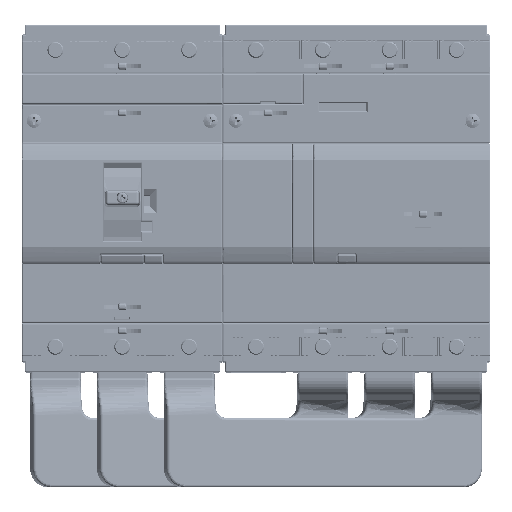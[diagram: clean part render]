
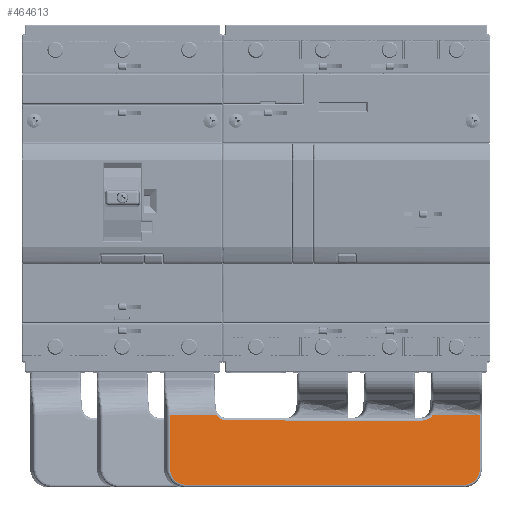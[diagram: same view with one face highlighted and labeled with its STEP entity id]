
A CAD part, top view. The second image highlights one B-rep face of the part: STEP entity #464613.
In plain terms, the highlighted planar face has unit normal (0.259, 0, 0.966).
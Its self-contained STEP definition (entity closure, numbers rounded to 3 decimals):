
#47782 = CARTESIAN_POINT ( 'NONE',  ( 67.715, -84.37, -27.983 ) ) ;
#47803 = CARTESIAN_POINT ( 'NONE',  ( 67.715, -104.37, -27.983 ) ) ;
#47807 = CARTESIAN_POINT ( 'NONE',  ( 61.919, -110.37, -26.43 ) ) ;
#47814 = CARTESIAN_POINT ( 'NONE',  ( -48.148, -104.37, 3.063 ) ) ;
#47820 = CARTESIAN_POINT ( 'NONE',  ( -48.148, -84.37, 3.063 ) ) ;
#47824 = CARTESIAN_POINT ( 'NONE',  ( 50.075, -84.37, -23.256 ) ) ;
#47827 = CARTESIAN_POINT ( 'NONE',  ( 46.154, -86.37, -22.206 ) ) ;
#47831 = CARTESIAN_POINT ( 'NONE',  ( -30.763, -84.37, -1.596 ) ) ;
#47834 = CARTESIAN_POINT ( 'NONE',  ( -26.898, -86.37, -2.631 ) ) ;
#47837 = CARTESIAN_POINT ( 'NONE',  ( -42.352, -110.37, 1.51 ) ) ;
#121118 = LINE ( 'NONE', #121228, #346472 ) ;
#121172 = CARTESIAN_POINT ( 'NONE',  ( 67.715, -104.37, -27.983 ) ) ;
#121179 = CARTESIAN_POINT ( 'NONE',  ( 67.715, -107.884, -27.983 ) ) ;
#121213 = CARTESIAN_POINT ( 'NONE',  ( 65.314, -110.37, -27.339 ) ) ;
#121220 = CARTESIAN_POINT ( 'NONE',  ( 61.919, -110.37, -26.43 ) ) ;
#121228 = CARTESIAN_POINT ( 'NONE',  ( -42.352, -84.37, 1.51 ) ) ;
#121255 = DIRECTION ( 'NONE',  ( -0.966, 0., 0.259 ) ) ;
#122818 = CARTESIAN_POINT ( 'NONE',  ( -30.537, -84.681, -1.656 ) ) ;
#122829 = CARTESIAN_POINT ( 'NONE',  ( -30.28, -84.96, -1.725 ) ) ;
#122916 = CARTESIAN_POINT ( 'NONE',  ( -30.763, -84.37, -1.596 ) ) ;
#122927 = CARTESIAN_POINT ( 'NONE',  ( -29.71, -85.453, -1.878 ) ) ;
#122934 = CARTESIAN_POINT ( 'NONE',  ( -29.392, -85.669, -1.963 ) ) ;
#122939 = CARTESIAN_POINT ( 'NONE',  ( -28.727, -86.013, -2.141 ) ) ;
#122944 = CARTESIAN_POINT ( 'NONE',  ( -28.376, -86.146, -2.235 ) ) ;
#122951 = CARTESIAN_POINT ( 'NONE',  ( -27.645, -86.325, -2.431 ) ) ;
#122956 = CARTESIAN_POINT ( 'NONE',  ( -27.274, -86.37, -2.53 ) ) ;
#122961 = CARTESIAN_POINT ( 'NONE',  ( -26.898, -86.37, -2.631 ) ) ;
#122996 = LINE ( 'NONE', #123012, #346875 ) ;
#123012 = CARTESIAN_POINT ( 'NONE',  ( -42.352, -86.37, 1.51 ) ) ;
#123020 = DIRECTION ( 'NONE',  ( 0.966, 0., -0.259 ) ) ;
#123737 =( BOUNDED_CURVE ( )  B_SPLINE_CURVE ( 3, ( #121172, #121179, #121213, #121220 ),
 .UNSPECIFIED., .F., .T. ) 
 B_SPLINE_CURVE_WITH_KNOTS ( ( 4, 4 ),
 ( 0., 1. ),
 .UNSPECIFIED. ) 
 CURVE ( )  GEOMETRIC_REPRESENTATION_ITEM ( )  RATIONAL_B_SPLINE_CURVE ( ( 1., 0.805, 0.805, 1. ) ) 
 REPRESENTATION_ITEM ( '' )  );
#124046 =( BOUNDED_CURVE ( )  B_SPLINE_CURVE ( 3, ( #213788, #213683, #213805, #213808 ),
 .UNSPECIFIED., .F., .T. ) 
 B_SPLINE_CURVE_WITH_KNOTS ( ( 4, 4 ),
 ( 0., 1. ),
 .UNSPECIFIED. ) 
 CURVE ( )  GEOMETRIC_REPRESENTATION_ITEM ( )  RATIONAL_B_SPLINE_CURVE ( ( 1., 0.805, 0.805, 1. ) ) 
 REPRESENTATION_ITEM ( '' )  );
#175495 = CARTESIAN_POINT ( 'NONE',  ( 46.535, -86.37, -22.308 ) ) ;
#175500 = CARTESIAN_POINT ( 'NONE',  ( 46.154, -86.37, -22.206 ) ) ;
#175521 = LINE ( 'NONE', #175548, #209871 ) ;
#175527 = CARTESIAN_POINT ( 'NONE',  ( 46.908, -86.326, -22.408 ) ) ;
#175529 = CARTESIAN_POINT ( 'NONE',  ( 47.641, -86.151, -22.604 ) ) ;
#175531 = CARTESIAN_POINT ( 'NONE',  ( 48.004, -86.019, -22.701 ) ) ;
#175534 = CARTESIAN_POINT ( 'NONE',  ( 48.678, -85.676, -22.882 ) ) ;
#175536 = CARTESIAN_POINT ( 'NONE',  ( 48.996, -85.466, -22.967 ) ) ;
#175538 = CARTESIAN_POINT ( 'NONE',  ( 49.583, -84.966, -23.124 ) ) ;
#175541 = CARTESIAN_POINT ( 'NONE',  ( 49.845, -84.684, -23.195 ) ) ;
#175543 = CARTESIAN_POINT ( 'NONE',  ( 50.075, -84.37, -23.256 ) ) ;
#175548 = CARTESIAN_POINT ( 'NONE',  ( 67.715, -104.37, -27.983 ) ) ;
#175550 = DIRECTION ( 'NONE',  ( 0., 1., 0. ) ) ;
#176272 = LINE ( 'NONE', #176275, #210096 ) ;
#176275 = CARTESIAN_POINT ( 'NONE',  ( -42.352, -110.37, 1.51 ) ) ;
#176277 = DIRECTION ( 'NONE',  ( -0.966, 0., 0.259 ) ) ;
#176317 = LINE ( 'NONE', #176340, #210092 ) ;
#176340 = CARTESIAN_POINT ( 'NONE',  ( -48.148, -104.37, 3.063 ) ) ;
#176350 = DIRECTION ( 'NONE',  ( 0., 1., 0. ) ) ;
#176360 = LINE ( 'NONE', #176363, #210101 ) ;
#176363 = CARTESIAN_POINT ( 'NONE',  ( -39.236, -84.37, 0.675 ) ) ;
#176365 = DIRECTION ( 'NONE',  ( 0.966, 0., -0.259 ) ) ;
#190254 = EDGE_CURVE ( 'NONE', #454511, #454523, #123737, .T. ) ;
#190259 = EDGE_CURVE ( 'NONE', #454475, #454551, #121118, .T. ) ;
#190580 = EDGE_CURVE ( 'NONE', #454563, #454569, #352753, .T. ) ;
#190593 = EDGE_CURVE ( 'NONE', #454569, #454557, #122996, .T. ) ;
#193211 = EDGE_CURVE ( 'NONE', #454574, #454535, #124046, .T. ) ;
#195187 = EDGE_CURVE ( 'NONE', #454557, #454551, #353123, .T. ) ;
#195194 = EDGE_CURVE ( 'NONE', #454511, #454475, #175521, .T. ) ;
#195646 = EDGE_CURVE ( 'NONE', #454523, #454574, #176272, .T. ) ;
#195677 = EDGE_CURVE ( 'NONE', #454535, #454545, #176317, .T. ) ;
#195689 = EDGE_CURVE ( 'NONE', #454545, #454563, #176360, .T. ) ;
#209871 = VECTOR ( 'NONE', #175550, 1000. ) ;
#210092 = VECTOR ( 'NONE', #176350, 1000. ) ;
#210096 = VECTOR ( 'NONE', #176277, 1000. ) ;
#210101 = VECTOR ( 'NONE', #176365, 1000. ) ;
#213683 = CARTESIAN_POINT ( 'NONE',  ( -45.747, -110.37, 2.419 ) ) ;
#213788 = CARTESIAN_POINT ( 'NONE',  ( -42.352, -110.37, 1.51 ) ) ;
#213805 = CARTESIAN_POINT ( 'NONE',  ( -48.148, -107.884, 3.063 ) ) ;
#213808 = CARTESIAN_POINT ( 'NONE',  ( -48.148, -104.37, 3.063 ) ) ;
#330959 = ORIENTED_EDGE ( 'NONE', *, *, #190254, .F. ) ;
#330965 = ORIENTED_EDGE ( 'NONE', *, *, #195194, .T. ) ;
#330970 = ORIENTED_EDGE ( 'NONE', *, *, #190259, .T. ) ;
#330976 = ORIENTED_EDGE ( 'NONE', *, *, #195187, .F. ) ;
#330982 = ORIENTED_EDGE ( 'NONE', *, *, #190593, .F. ) ;
#330986 = ORIENTED_EDGE ( 'NONE', *, *, #190580, .F. ) ;
#330990 = ORIENTED_EDGE ( 'NONE', *, *, #195689, .F. ) ;
#330994 = ORIENTED_EDGE ( 'NONE', *, *, #195677, .F. ) ;
#330997 = ORIENTED_EDGE ( 'NONE', *, *, #193211, .F. ) ;
#331003 = ORIENTED_EDGE ( 'NONE', *, *, #195646, .F. ) ;
#346472 = VECTOR ( 'NONE', #121255, 1000. ) ;
#346875 = VECTOR ( 'NONE', #123020, 1000. ) ;
#352753 = B_SPLINE_CURVE_WITH_KNOTS ( 'NONE', 3,
 ( #122916, #122818, #122829, #122927, #122934, #122939, #122944, #122951, #122956, #122961 ),
 .UNSPECIFIED., .F., .F.,
 ( 4, 2, 2, 2, 4 ),
 ( 0., 0.25, 0.5, 0.75, 1. ),
 .UNSPECIFIED. ) ;
#353123 = B_SPLINE_CURVE_WITH_KNOTS ( 'NONE', 3,
 ( #175500, #175495, #175527, #175529, #175531, #175534, #175536, #175538, #175541, #175543 ),
 .UNSPECIFIED., .F., .F.,
 ( 4, 2, 2, 2, 4 ),
 ( 0., 0.25, 0.5, 0.75, 1. ),
 .UNSPECIFIED. ) ;
#364111 = FACE_OUTER_BOUND ( 'NONE', #468796, .T. ) ;
#364117 = PLANE ( 'NONE',  #421515 ) ;
#364180 = CARTESIAN_POINT ( 'NONE',  ( -42.352, -104.37, 1.51 ) ) ;
#364182 = DIRECTION ( 'NONE',  ( 0.259, 0., 0.966 ) ) ;
#364186 = DIRECTION ( 'NONE',  ( 0.966, 0., -0.259 ) ) ;
#421515 = AXIS2_PLACEMENT_3D ( 'NONE', #364180, #364182, #364186 ) ;
#454475 = VERTEX_POINT ( 'NONE', #47782 ) ;
#454511 = VERTEX_POINT ( 'NONE', #47803 ) ;
#454523 = VERTEX_POINT ( 'NONE', #47807 ) ;
#454535 = VERTEX_POINT ( 'NONE', #47814 ) ;
#454545 = VERTEX_POINT ( 'NONE', #47820 ) ;
#454551 = VERTEX_POINT ( 'NONE', #47824 ) ;
#454557 = VERTEX_POINT ( 'NONE', #47827 ) ;
#454563 = VERTEX_POINT ( 'NONE', #47831 ) ;
#454569 = VERTEX_POINT ( 'NONE', #47834 ) ;
#454574 = VERTEX_POINT ( 'NONE', #47837 ) ;
#464613 = ADVANCED_FACE ( 'NONE', ( #364111 ), #364117, .T. ) ;
#468796 = EDGE_LOOP ( 'NONE', ( #330959, #330965, #330970, #330976, #330982, #330986, #330990, #330994, #330997, #331003 ) ) ;
